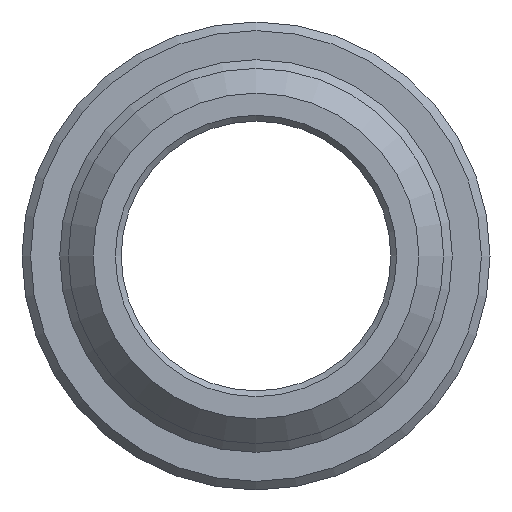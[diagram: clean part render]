
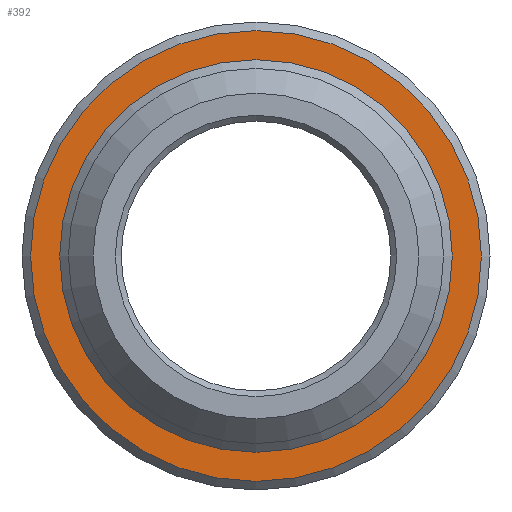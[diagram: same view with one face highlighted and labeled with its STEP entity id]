
A CAD part, front view. The second image highlights one B-rep face of the part: STEP entity #392.
In plain terms, the highlighted planar face has unit normal (0, -1, 0).
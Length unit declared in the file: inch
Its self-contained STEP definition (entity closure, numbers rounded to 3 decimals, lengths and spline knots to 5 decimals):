
#33=FACE_BOUND('',#86,.T.);
#44=PLANE('',#443);
#60=FACE_OUTER_BOUND('',#85,.T.);
#85=EDGE_LOOP('',(#316));
#86=EDGE_LOOP('',(#317));
#158=CIRCLE('',#442,0.34053);
#159=CIRCLE('',#444,0.391);
#195=VERTEX_POINT('',#678);
#196=VERTEX_POINT('',#682);
#243=EDGE_CURVE('',#195,#195,#158,.T.);
#244=EDGE_CURVE('',#196,#196,#159,.T.);
#316=ORIENTED_EDGE('',*,*,#244,.F.);
#317=ORIENTED_EDGE('',*,*,#243,.F.);
#392=ADVANCED_FACE('',(#60,#33),#44,.T.);
#442=AXIS2_PLACEMENT_3D('',#680,#536,#537);
#443=AXIS2_PLACEMENT_3D('',#681,#538,#539);
#444=AXIS2_PLACEMENT_3D('',#683,#540,#541);
#536=DIRECTION('center_axis',(0.,-1.,0.));
#537=DIRECTION('ref_axis',(0.,0.,-1.));
#538=DIRECTION('center_axis',(0.,-1.,0.));
#539=DIRECTION('ref_axis',(0.,0.,-1.));
#540=DIRECTION('center_axis',(0.,1.,0.));
#541=DIRECTION('ref_axis',(0.,0.,1.));
#678=CARTESIAN_POINT('',(0.,7.25,0.34053));
#680=CARTESIAN_POINT('Origin',(0.,7.25,0.));
#681=CARTESIAN_POINT('Origin',(0.,7.25,-0.3375));
#682=CARTESIAN_POINT('',(0.,7.25,-0.391));
#683=CARTESIAN_POINT('Origin',(0.,7.25,0.));
